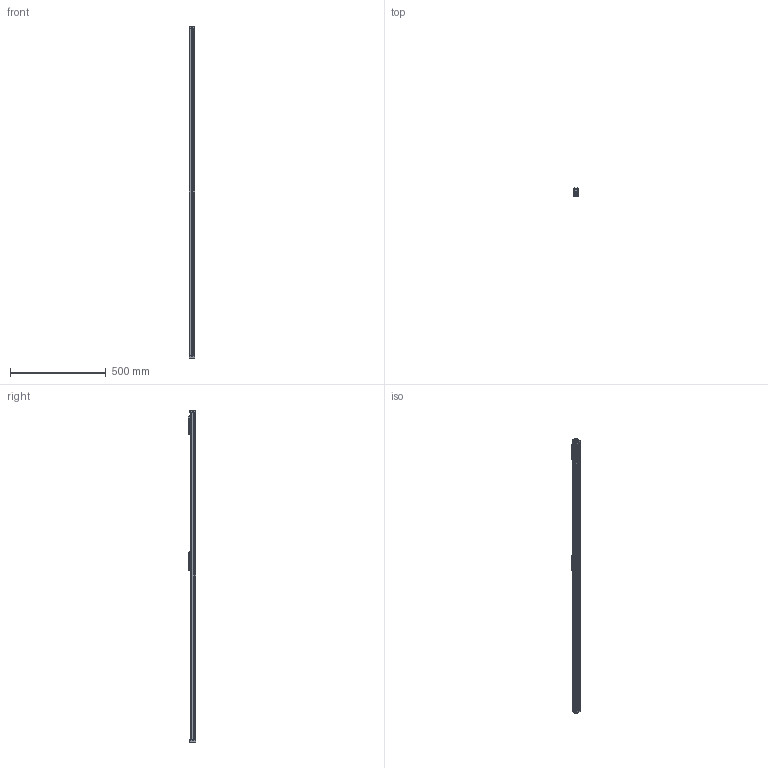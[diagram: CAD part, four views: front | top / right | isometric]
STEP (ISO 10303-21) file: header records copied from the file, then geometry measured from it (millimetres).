
FILE_DESCRIPTION (( 'STEP AP203' ), '1' );
FILE_NAME ('MXP16N_NP_SK34.000_MXP-492867-1.step', '2025-07-16T11:57:50', ( '' ), ( '' ), 'SwSTEP 2.0', 'SolidWorks 2024', '' );
FILE_SCHEMA (( 'CONFIG_CONTROL_DESIGN' ));
Length unit declared in the file: inch
Products named in the file (3): Base_MXP16N_NP_SK34.000_MXP-492867-1; 81169500_MXP16N_NP_SK34.000_MXP-492867-1; MXP16N_NP_SK34.000_MXP-492867-1
Assembly tree (3 placements, depth 2):
  MXP16N_NP_SK34.000_MXP-492867-1
    81169500_MXP16N_NP_SK34.000_MXP-492867-1  x2
    Base_MXP16N_NP_SK34.000_MXP-492867-1
Bounding box: 30 x 39.25 x 1733.89 mm (x, y, z)
Volume: 1051770.8 mm3; surface area: 405149.8 mm2
Topology: 3 solids, 17 shells, 995 faces, 2399 edges, 1498 vertices
Faces by surface type: plane 556, cylinder 288, torus 76, cone 51, bspline 16, sphere 8
Full cylindrical faces by diameter (mm): 2.705 x16, 3 x10, 3.175 x2, 3.454 x8, 3.51 x2, 3.91 x8, 4.039 x14, 5.5 x20, 6.4 x12, 15.85 x2
Entity records: 21155 total; most frequent: CARTESIAN_POINT 3896, DIRECTION 3644, ORIENTED_EDGE 3254, EDGE_CURVE 1627, AXIS2_PLACEMENT_3D 1324, VERTEX_POINT 1088, LINE 996, VECTOR 996
